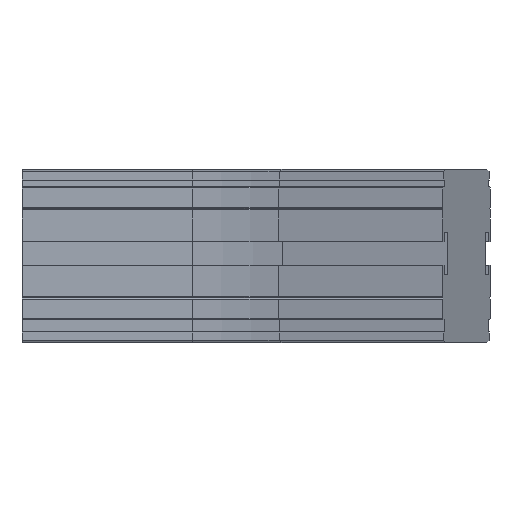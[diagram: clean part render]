
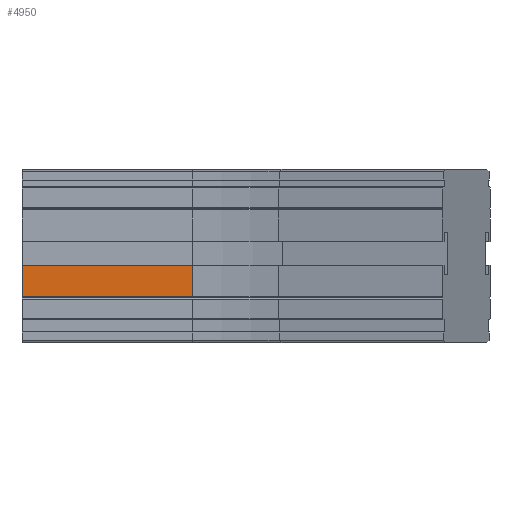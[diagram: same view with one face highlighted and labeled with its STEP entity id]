
A CAD part, front view. The second image highlights one B-rep face of the part: STEP entity #4950.
In plain terms, the highlighted planar face has unit normal (0, -1, 0).
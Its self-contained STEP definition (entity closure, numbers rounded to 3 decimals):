
#3550=CARTESIAN_POINT('',(80.0,-43.0,-60.));
#3551=VERTEX_POINT('',#3550);
#3575=CARTESIAN_POINT('',(80.0,-43.0,-45.));
#3576=VERTEX_POINT('',#3575);
#3584=CARTESIAN_POINT('',(80.0,-43.0,-60.));
#3585=DIRECTION('',(0.0,0.0,1.0));
#3586=VECTOR('',#3585,15.0);
#3587=LINE('',#3584,#3586);
#3588=EDGE_CURVE('',#3551,#3576,#3587,.T.);
#4909=CARTESIAN_POINT('',(0.0,-43.0,-60.));
#4910=VERTEX_POINT('',#4909);
#4911=CARTESIAN_POINT('',(0.0,-43.0,-60.));
#4912=DIRECTION('',(1.0,0.0,0.0));
#4913=VECTOR('',#4912,80.0);
#4914=LINE('',#4911,#4913);
#4915=EDGE_CURVE('',#4910,#3551,#4914,.T.);
#4927=CARTESIAN_POINT('',(0.0,-43.0,-60.));
#4928=DIRECTION('',(0.0,-1.0,0.0));
#4929=DIRECTION('',(0.0,0.0,-1.0));
#4930=AXIS2_PLACEMENT_3D('',#4927,#4928,#4929);
#4931=PLANE('',#4930);
#4932=ORIENTED_EDGE('',*,*,#3588,.T.);
#4933=CARTESIAN_POINT('',(0.0,-43.0,-45.));
#4934=VERTEX_POINT('',#4933);
#4935=CARTESIAN_POINT('',(0.0,-43.0,-45.));
#4936=DIRECTION('',(1.0,0.0,0.0));
#4937=VECTOR('',#4936,80.0);
#4938=LINE('',#4935,#4937);
#4939=EDGE_CURVE('',#4934,#3576,#4938,.T.);
#4940=ORIENTED_EDGE('',*,*,#4939,.F.);
#4941=CARTESIAN_POINT('',(0.0,-43.0,-45.));
#4942=DIRECTION('',(0.0,0.0,-1.0));
#4943=VECTOR('',#4942,15.0);
#4944=LINE('',#4941,#4943);
#4945=EDGE_CURVE('',#4934,#4910,#4944,.T.);
#4946=ORIENTED_EDGE('',*,*,#4945,.T.);
#4947=ORIENTED_EDGE('',*,*,#4915,.T.);
#4948=EDGE_LOOP('',(#4932,#4940,#4946,#4947));
#4949=FACE_OUTER_BOUND('',#4948,.T.);
#4950=ADVANCED_FACE('',(#4949),#4931,.T.);
